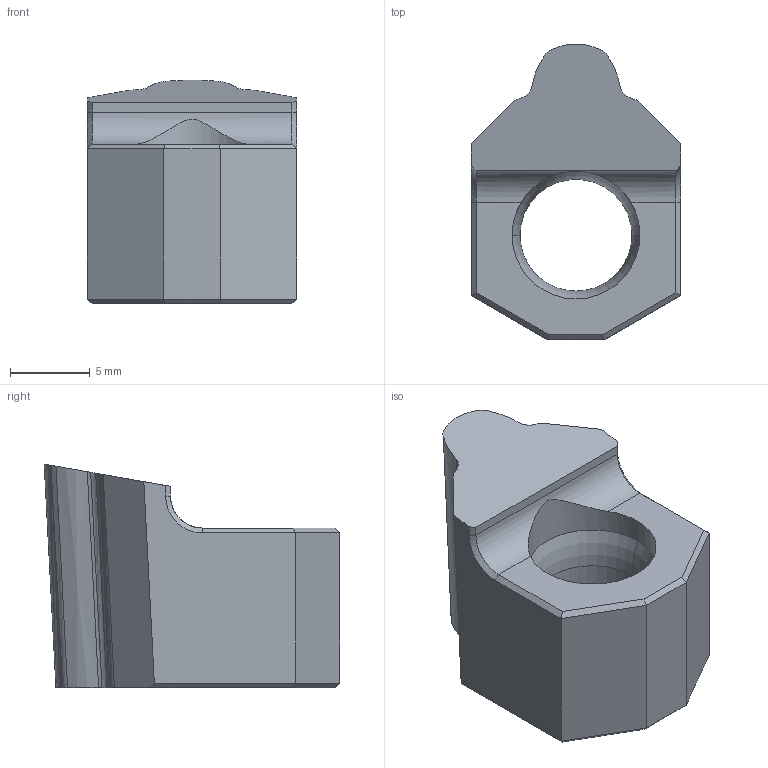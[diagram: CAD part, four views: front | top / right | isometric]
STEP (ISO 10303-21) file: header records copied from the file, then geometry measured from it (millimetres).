
FILE_DESCRIPTION (( 'STEP AP214' ), '1' );
FILE_NAME ('IN-PG8-51_119.STEP', '2023-08-04T09:25:57', ( 'Paolo' ), ( '' ), 'SwSTEP 2.0', 'SolidWorks 2020', '' );
FILE_SCHEMA (( 'AUTOMOTIVE_DESIGN' ));
Length unit declared in the file: millimetre
Products named in the file (1): IN-PG8-51_119
Bounding box: 13.1 x 18.5 x 14 mm (x, y, z)
Volume: 1665.4 mm3; surface area: 1122.9 mm2
Topology: 1 solids, 1 shells, 48 faces, 125 edges, 78 vertices
Faces by surface type: plane 23, bspline 14, cylinder 5, cone 4, torus 2
Entity records: 1587 total; most frequent: CARTESIAN_POINT 483, ORIENTED_EDGE 250, DIRECTION 181, EDGE_CURVE 125, VERTEX_POINT 78, VECTOR 77, LINE 77, AXIS2_PLACEMENT_3D 52
